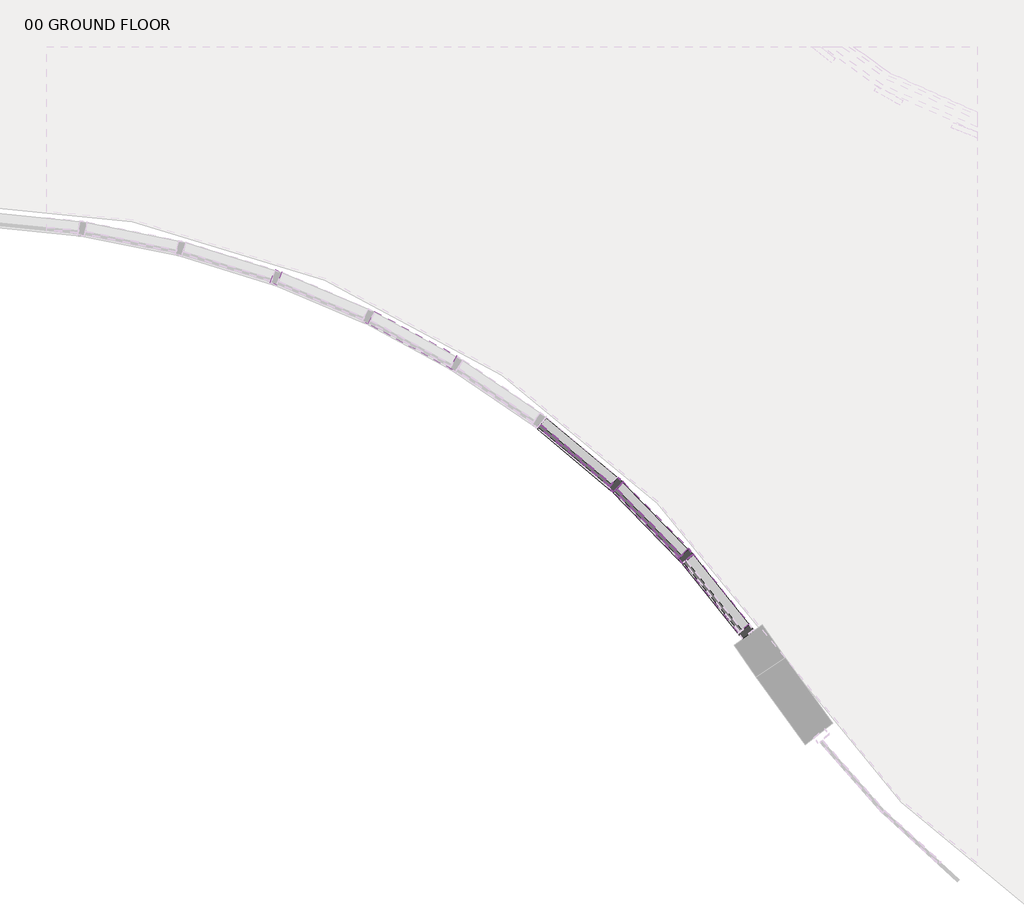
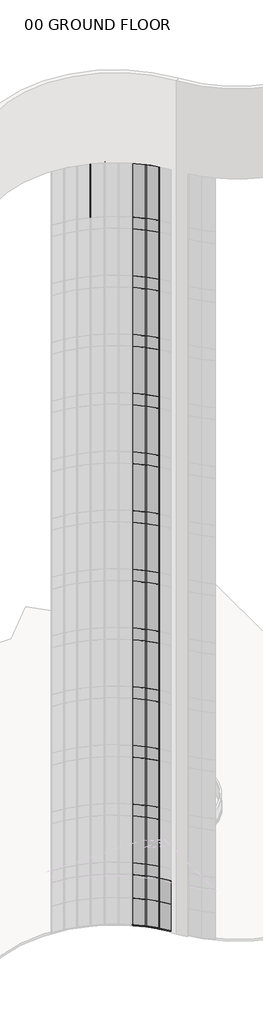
# One storey, part 11 of 33: 61 members, 54 plates.
"""IFC4 building model written with IfcOpenShell, lengths in millimetres."""

from ifc_helpers import new_model, si_unit, origin, place, context, project, spatial, transform, mapped, element, save
from components import member_45b72dba, member_3374d9b6, member_e36a524b, member_ab6b85c2, member_540e4832, member_7cbddb58, member_d60e8053, member_410c6227, member_810865a4, member_9e61c091, system_panel_su_blue_b2b39788, system_panel_su_blue_992d2dbe, system_panel_su_blue_b9649bec, system_panel_su_blue_f02faf6b, system_panel_su_blue_144861c6, system_panel_su_blue_654c3fe2, system_panel_su_blue_af244712

model = new_model("IFC4")

# Units and contexts
model_context = context("Model", 3, world=origin())
ifc_project = project(units=[si_unit("LENGTHUNIT", "METRE", prefix="MILLI")], contexts=[model_context])

# Site, building, storey
site = spatial("IfcSite", under=ifc_project)
building = spatial("IfcBuilding", under=site)
storey = spatial("IfcBuildingStorey", under=building, Name="00 GROUND FLOOR", Elevation=0.0)

# Members
placement = place(None, origin())
member_shape = member_45b72dba(model_context)
element("IfcMember", 1, ObjectType="Rectangular Mullion : 2.5\" x 5\" rectangular", at=placement, inside=storey, context=model_context, shape_type="MappedRepresentation", body=[
    mapped(member_shape, transform((22378.5173022, 362.2740469, 59436.0), x_axis=(0.624940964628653, -0.7806720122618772, 0.0), y_axis=(0.7806720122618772, 0.624940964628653, 0.0), z_axis=(0.0, 0.0, 1.0))),
])
member_2_shape = member_3374d9b6(model_context)
element("IfcMember", 2, ObjectType="Rectangular Mullion : 2.5\" x 5\" rectangular", at=placement, inside=storey, context=model_context, shape_type="MappedRepresentation", body=[
    mapped(member_2_shape, transform((22378.5173022, 362.2740469, 2133.6), x_axis=(0.624940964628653, -0.7806720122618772, 0.0), y_axis=(0.7806720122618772, 0.624940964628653, 0.0), z_axis=(0.0, 0.0, 1.0))),
])
member_3_shape = member_e36a524b(model_context)
element("IfcMember", 3, ObjectType="Rectangular Mullion : 2.5\" x 5\" rectangular", at=placement, inside=storey, context=model_context, shape_type="MappedRepresentation", body=[
    mapped(member_3_shape, transform((21839.5249529, 1035.579632, 59436.0), x_axis=(0.0, 0.0, 1.0), y_axis=(0.780672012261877, 0.6249409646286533, 0.0), z_axis=(-0.6249409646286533, 0.780672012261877, 0.0))),
])
member_4_shape = member_ab6b85c2(model_context)
element("IfcMember", 4, ObjectType="Rectangular Mullion : 2.5\" x 5\" rectangular", at=placement, inside=storey, context=model_context, shape_type="MappedRepresentation", body=[
    mapped(member_4_shape, transform((21216.4567288, 1676.7839438, 59436.0), x_axis=(0.0, 0.0, 1.0), y_axis=(0.714713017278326, 0.699417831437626, 0.0), z_axis=(-0.6994178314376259, 0.7147130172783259, 0.0))),
])
element("IfcMember", 5, ObjectType="Rectangular Mullion : 2.5\" x 5\" rectangular", at=placement, inside=storey, context=model_context, shape_type="MappedRepresentation", body=[
    mapped(member_4_shape, transform((19011.0827328, 3187.7926715, 59436.0), x_axis=(0.0, 0.0, 1.0), y_axis=(0.47734745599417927, 0.8787146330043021, 0.0), z_axis=(-0.878714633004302, 0.4773474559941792, 0.0))),
])
member_5_shape = member_540e4832(model_context)
element("IfcMember", 6, ObjectType="Rectangular Mullion : 2.5\" x 5\" rectangular", at=placement, inside=storey, context=model_context, shape_type="MappedRepresentation", body=[
    mapped(member_5_shape, transform((22338.8335509, 411.8467197, 0.0), x_axis=(0.0, 0.0, -1.0), y_axis=(0.780672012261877, 0.6249409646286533, 0.0), z_axis=(0.6249409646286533, -0.780672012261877, 0.0))),
])
element("IfcMember", 7, ObjectType="Rectangular Mullion : 2.5\" x 5\" rectangular", at=placement, inside=storey, context=model_context, shape_type="MappedRepresentation", body=[
    mapped(member_4_shape, transform((21797.4765612, 1083.0581067, 0.0), x_axis=(0.0, 0.0, -1.0), y_axis=(0.714713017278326, 0.699417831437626, 0.0), z_axis=(0.6994178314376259, -0.7147130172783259, 0.0))),
])
element("IfcMember", 8, ObjectType="Rectangular Mullion : 2.5\" x 5\" rectangular", at=placement, inside=storey, context=model_context, shape_type="MappedRepresentation", body=[
    mapped(member_4_shape, transform((21169.8988426, 1719.8494294, 0.0), x_axis=(0.0, 0.0, -1.0), y_axis=(0.6416802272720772, 0.7669722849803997, 0.0), z_axis=(0.7669722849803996, -0.6416802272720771, 0.0))),
])
member_6_shape = member_7cbddb58(model_context)
element("IfcMember", 9, ObjectType="Rectangular Mullion : 2.5\" x 5\" rectangular", at=placement, inside=storey, context=model_context, shape_type="MappedRepresentation", body=[
    mapped(member_6_shape, transform((21819.6830773, 1060.3659684, 0.0), x_axis=(-0.6630001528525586, 0.7486192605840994, 0.0), y_axis=(0.7486192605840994, 0.6630001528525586, 0.0), z_axis=(0.0, 0.0, -1.0))),
])
element("IfcMember", 10, ObjectType="Rectangular Mullion : 2.5\" x 5\" rectangular", at=placement, inside=storey, context=model_context, shape_type="MappedRepresentation", body=[
    mapped(member_6_shape, transform((21194.2502127, 1699.4760821, 0.0), x_axis=(-0.7341038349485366, 0.6790372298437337, 0.0), y_axis=(0.6790372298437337, 0.7341038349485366, 0.0), z_axis=(0.0, 0.0, -1.0))),
])
member_7_shape = member_d60e8053(model_context)
element("IfcMember", 11, ObjectType="Rectangular Mullion : 2.5\" x 5\" rectangular", at=placement, inside=storey, context=model_context, shape_type="MappedRepresentation", body=[
    mapped(member_7_shape, transform((21819.6830773, 1060.3659684, 2133.6), x_axis=(-0.6630001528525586, 0.7486192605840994, 0.0), y_axis=(0.7486192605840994, 0.6630001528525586, 0.0), z_axis=(0.0, 0.0, -1.0))),
])
element("IfcMember", 12, ObjectType="Rectangular Mullion : 2.5\" x 5\" rectangular", at=placement, inside=storey, context=model_context, shape_type="MappedRepresentation", body=[
    mapped(member_7_shape, transform((21194.2502127, 1699.4760821, 2133.6), x_axis=(-0.7341038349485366, 0.6790372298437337, 0.0), y_axis=(0.6790372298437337, 0.7341038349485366, 0.0), z_axis=(0.0, 0.0, -1.0))),
])
member_8_shape = member_410c6227(model_context)
element("IfcMember", 13, ObjectType="Rectangular Mullion : 2.5\" x 5\" rectangular", at=placement, inside=storey, context=model_context, shape_type="MappedRepresentation", body=[
    mapped(member_8_shape, transform((21819.6830773, 1060.3659684, 3962.4), x_axis=(-0.6630001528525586, 0.7486192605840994, 0.0), y_axis=(0.7486192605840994, 0.6630001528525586, 0.0), z_axis=(0.0, 0.0, -1.0))),
])
element("IfcMember", 14, ObjectType="Rectangular Mullion : 2.5\" x 5\" rectangular", at=placement, inside=storey, context=model_context, shape_type="MappedRepresentation", body=[
    mapped(member_8_shape, transform((21194.2502127, 1699.4760821, 3962.4), x_axis=(-0.7341038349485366, 0.6790372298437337, 0.0), y_axis=(0.6790372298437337, 0.7341038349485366, 0.0), z_axis=(0.0, 0.0, -1.0))),
])
element("IfcMember", 15, ObjectType="Rectangular Mullion : 2.5\" x 5\" rectangular", at=placement, inside=storey, context=model_context, shape_type="MappedRepresentation", body=[
    mapped(member_8_shape, transform((21819.6830773, 1060.3659684, 8534.4), x_axis=(-0.6630001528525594, 0.7486192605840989, 0.0), y_axis=(0.7486192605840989, 0.6630001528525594, 0.0), z_axis=(0.0, 0.0, -1.0))),
])
element("IfcMember", 16, ObjectType="Rectangular Mullion : 2.5\" x 5\" rectangular", at=placement, inside=storey, context=model_context, shape_type="MappedRepresentation", body=[
    mapped(member_8_shape, transform((21194.2502127, 1699.4760821, 8534.4), x_axis=(-0.7341038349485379, 0.6790372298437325, 0.0), y_axis=(0.6790372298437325, 0.7341038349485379, 0.0), z_axis=(0.0, 0.0, -1.0))),
])
element("IfcMember", 17, ObjectType="Rectangular Mullion : 2.5\" x 5\" rectangular", at=placement, inside=storey, context=model_context, shape_type="MappedRepresentation", body=[
    mapped(member_8_shape, transform((21819.6830773, 1060.3659684, 13106.4), x_axis=(-0.6630001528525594, 0.7486192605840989, 0.0), y_axis=(0.7486192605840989, 0.6630001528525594, 0.0), z_axis=(0.0, 0.0, -1.0))),
])
element("IfcMember", 18, ObjectType="Rectangular Mullion : 2.5\" x 5\" rectangular", at=placement, inside=storey, context=model_context, shape_type="MappedRepresentation", body=[
    mapped(member_8_shape, transform((21194.2502127, 1699.4760821, 13106.4), x_axis=(-0.7341038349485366, 0.6790372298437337, 0.0), y_axis=(0.6790372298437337, 0.7341038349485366, 0.0), z_axis=(0.0, 0.0, -1.0))),
])
element("IfcMember", 19, ObjectType="Rectangular Mullion : 2.5\" x 5\" rectangular", at=placement, inside=storey, context=model_context, shape_type="MappedRepresentation", body=[
    mapped(member_8_shape, transform((21819.6830773, 1060.3659684, 17678.4), x_axis=(-0.6630001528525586, 0.7486192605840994, 0.0), y_axis=(0.7486192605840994, 0.6630001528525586, 0.0), z_axis=(0.0, 0.0, -1.0))),
])
element("IfcMember", 20, ObjectType="Rectangular Mullion : 2.5\" x 5\" rectangular", at=placement, inside=storey, context=model_context, shape_type="MappedRepresentation", body=[
    mapped(member_8_shape, transform((21194.2502127, 1699.4760821, 17678.4), x_axis=(-0.7341038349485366, 0.6790372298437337, 0.0), y_axis=(0.6790372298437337, 0.7341038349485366, 0.0), z_axis=(0.0, 0.0, -1.0))),
])
element("IfcMember", 21, ObjectType="Rectangular Mullion : 2.5\" x 5\" rectangular", at=placement, inside=storey, context=model_context, shape_type="MappedRepresentation", body=[
    mapped(member_8_shape, transform((21819.6830773, 1060.3659684, 22250.4), x_axis=(-0.6630001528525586, 0.7486192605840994, 0.0), y_axis=(0.7486192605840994, 0.6630001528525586, 0.0), z_axis=(0.0, 0.0, -1.0))),
])
element("IfcMember", 22, ObjectType="Rectangular Mullion : 2.5\" x 5\" rectangular", at=placement, inside=storey, context=model_context, shape_type="MappedRepresentation", body=[
    mapped(member_8_shape, transform((21194.2502127, 1699.4760821, 22250.4), x_axis=(-0.7341038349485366, 0.6790372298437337, 0.0), y_axis=(0.6790372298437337, 0.7341038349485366, 0.0), z_axis=(0.0, 0.0, -1.0))),
])
element("IfcMember", 23, ObjectType="Rectangular Mullion : 2.5\" x 5\" rectangular", at=placement, inside=storey, context=model_context, shape_type="MappedRepresentation", body=[
    mapped(member_8_shape, transform((21819.6830773, 1060.3659684, 26822.4), x_axis=(-0.6630001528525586, 0.7486192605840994, 0.0), y_axis=(0.7486192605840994, 0.6630001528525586, 0.0), z_axis=(0.0, 0.0, -1.0))),
])
element("IfcMember", 24, ObjectType="Rectangular Mullion : 2.5\" x 5\" rectangular", at=placement, inside=storey, context=model_context, shape_type="MappedRepresentation", body=[
    mapped(member_8_shape, transform((21194.2502127, 1699.4760821, 26822.4), x_axis=(-0.7341038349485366, 0.6790372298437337, 0.0), y_axis=(0.6790372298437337, 0.7341038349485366, 0.0), z_axis=(0.0, 0.0, -1.0))),
])
element("IfcMember", 25, ObjectType="Rectangular Mullion : 2.5\" x 5\" rectangular", at=placement, inside=storey, context=model_context, shape_type="MappedRepresentation", body=[
    mapped(member_8_shape, transform((21819.6830773, 1060.3659684, 31394.4), x_axis=(-0.6630001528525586, 0.7486192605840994, 0.0), y_axis=(0.7486192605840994, 0.6630001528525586, 0.0), z_axis=(0.0, 0.0, -1.0))),
])
element("IfcMember", 26, ObjectType="Rectangular Mullion : 2.5\" x 5\" rectangular", at=placement, inside=storey, context=model_context, shape_type="MappedRepresentation", body=[
    mapped(member_8_shape, transform((21194.2502127, 1699.4760821, 31394.4), x_axis=(-0.7341038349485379, 0.6790372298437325, 0.0), y_axis=(0.6790372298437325, 0.7341038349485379, 0.0), z_axis=(0.0, 0.0, -1.0))),
])
element("IfcMember", 27, ObjectType="Rectangular Mullion : 2.5\" x 5\" rectangular", at=placement, inside=storey, context=model_context, shape_type="MappedRepresentation", body=[
    mapped(member_8_shape, transform((21819.6830773, 1060.3659684, 35966.4), x_axis=(-0.6630001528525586, 0.7486192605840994, 0.0), y_axis=(0.7486192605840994, 0.6630001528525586, 0.0), z_axis=(0.0, 0.0, -1.0))),
])
element("IfcMember", 28, ObjectType="Rectangular Mullion : 2.5\" x 5\" rectangular", at=placement, inside=storey, context=model_context, shape_type="MappedRepresentation", body=[
    mapped(member_8_shape, transform((21194.2502127, 1699.4760821, 35966.4), x_axis=(-0.7341038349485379, 0.6790372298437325, 0.0), y_axis=(0.6790372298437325, 0.7341038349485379, 0.0), z_axis=(0.0, 0.0, -1.0))),
])
element("IfcMember", 29, ObjectType="Rectangular Mullion : 2.5\" x 5\" rectangular", at=placement, inside=storey, context=model_context, shape_type="MappedRepresentation", body=[
    mapped(member_8_shape, transform((21819.6830773, 1060.3659684, 40538.4), x_axis=(-0.6630001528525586, 0.7486192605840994, 0.0), y_axis=(0.7486192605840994, 0.6630001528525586, 0.0), z_axis=(0.0, 0.0, -1.0))),
])
element("IfcMember", 30, ObjectType="Rectangular Mullion : 2.5\" x 5\" rectangular", at=placement, inside=storey, context=model_context, shape_type="MappedRepresentation", body=[
    mapped(member_8_shape, transform((21194.2502127, 1699.4760821, 40538.4), x_axis=(-0.7341038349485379, 0.6790372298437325, 0.0), y_axis=(0.6790372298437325, 0.7341038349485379, 0.0), z_axis=(0.0, 0.0, -1.0))),
])
element("IfcMember", 31, ObjectType="Rectangular Mullion : 2.5\" x 5\" rectangular", at=placement, inside=storey, context=model_context, shape_type="MappedRepresentation", body=[
    mapped(member_8_shape, transform((21819.6830773, 1060.3659684, 45110.4), x_axis=(-0.6630001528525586, 0.7486192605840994, 0.0), y_axis=(0.7486192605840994, 0.6630001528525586, 0.0), z_axis=(0.0, 0.0, -1.0))),
])
element("IfcMember", 32, ObjectType="Rectangular Mullion : 2.5\" x 5\" rectangular", at=placement, inside=storey, context=model_context, shape_type="MappedRepresentation", body=[
    mapped(member_8_shape, transform((21194.2502127, 1699.4760821, 45110.4), x_axis=(-0.7341038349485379, 0.6790372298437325, 0.0), y_axis=(0.6790372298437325, 0.7341038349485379, 0.0), z_axis=(0.0, 0.0, -1.0))),
])
element("IfcMember", 33, ObjectType="Rectangular Mullion : 2.5\" x 5\" rectangular", at=placement, inside=storey, context=model_context, shape_type="MappedRepresentation", body=[
    mapped(member_8_shape, transform((21819.6830773, 1060.3659684, 49682.4), x_axis=(-0.6630001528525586, 0.7486192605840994, 0.0), y_axis=(0.7486192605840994, 0.6630001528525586, 0.0), z_axis=(0.0, 0.0, -1.0))),
])
element("IfcMember", 34, ObjectType="Rectangular Mullion : 2.5\" x 5\" rectangular", at=placement, inside=storey, context=model_context, shape_type="MappedRepresentation", body=[
    mapped(member_8_shape, transform((21194.2502127, 1699.4760821, 49682.4), x_axis=(-0.7341038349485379, 0.6790372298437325, 0.0), y_axis=(0.6790372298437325, 0.7341038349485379, 0.0), z_axis=(0.0, 0.0, -1.0))),
])
element("IfcMember", 35, ObjectType="Rectangular Mullion : 2.5\" x 5\" rectangular", at=placement, inside=storey, context=model_context, shape_type="MappedRepresentation", body=[
    mapped(member_8_shape, transform((21819.6830773, 1060.3659684, 54254.4), x_axis=(-0.6630001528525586, 0.7486192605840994, 0.0), y_axis=(0.7486192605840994, 0.6630001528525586, 0.0), z_axis=(0.0, 0.0, -1.0))),
])
element("IfcMember", 36, ObjectType="Rectangular Mullion : 2.5\" x 5\" rectangular", at=placement, inside=storey, context=model_context, shape_type="MappedRepresentation", body=[
    mapped(member_8_shape, transform((21194.2502127, 1699.4760821, 54254.4), x_axis=(-0.7341038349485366, 0.6790372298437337, 0.0), y_axis=(0.6790372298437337, 0.7341038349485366, 0.0), z_axis=(0.0, 0.0, -1.0))),
])
member_9_shape = member_810865a4(model_context)
element("IfcMember", 37, ObjectType="Rectangular Mullion : 2.5\" x 5\" rectangular", at=placement, inside=storey, context=model_context, shape_type="MappedRepresentation", body=[
    mapped(member_9_shape, transform((21819.6830773, 1060.3659684, 4876.8), x_axis=(-0.6630001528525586, 0.7486192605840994, 0.0), y_axis=(0.7486192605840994, 0.6630001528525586, 0.0), z_axis=(0.0, 0.0, -1.0))),
])
element("IfcMember", 38, ObjectType="Rectangular Mullion : 2.5\" x 5\" rectangular", at=placement, inside=storey, context=model_context, shape_type="MappedRepresentation", body=[
    mapped(member_9_shape, transform((21194.2502127, 1699.4760821, 4876.8), x_axis=(-0.7341038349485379, 0.6790372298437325, 0.0), y_axis=(0.6790372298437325, 0.7341038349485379, 0.0), z_axis=(0.0, 0.0, -1.0))),
])
element("IfcMember", 39, ObjectType="Rectangular Mullion : 2.5\" x 5\" rectangular", at=placement, inside=storey, context=model_context, shape_type="MappedRepresentation", body=[
    mapped(member_9_shape, transform((21819.6830773, 1060.3659684, 9448.8), x_axis=(-0.6630001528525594, 0.7486192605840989, 0.0), y_axis=(0.7486192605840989, 0.6630001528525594, 0.0), z_axis=(0.0, 0.0, -1.0))),
])
element("IfcMember", 40, ObjectType="Rectangular Mullion : 2.5\" x 5\" rectangular", at=placement, inside=storey, context=model_context, shape_type="MappedRepresentation", body=[
    mapped(member_9_shape, transform((21194.2502127, 1699.4760821, 9448.8), x_axis=(-0.7341038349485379, 0.6790372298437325, 0.0), y_axis=(0.6790372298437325, 0.7341038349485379, 0.0), z_axis=(0.0, 0.0, -1.0))),
])
element("IfcMember", 41, ObjectType="Rectangular Mullion : 2.5\" x 5\" rectangular", at=placement, inside=storey, context=model_context, shape_type="MappedRepresentation", body=[
    mapped(member_9_shape, transform((21819.6830773, 1060.3659684, 14020.8), x_axis=(-0.6630001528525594, 0.7486192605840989, 0.0), y_axis=(0.7486192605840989, 0.6630001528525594, 0.0), z_axis=(0.0, 0.0, -1.0))),
])
element("IfcMember", 42, ObjectType="Rectangular Mullion : 2.5\" x 5\" rectangular", at=placement, inside=storey, context=model_context, shape_type="MappedRepresentation", body=[
    mapped(member_9_shape, transform((21194.2502127, 1699.4760821, 14020.8), x_axis=(-0.7341038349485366, 0.6790372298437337, 0.0), y_axis=(0.6790372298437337, 0.7341038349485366, 0.0), z_axis=(0.0, 0.0, -1.0))),
])
element("IfcMember", 43, ObjectType="Rectangular Mullion : 2.5\" x 5\" rectangular", at=placement, inside=storey, context=model_context, shape_type="MappedRepresentation", body=[
    mapped(member_9_shape, transform((21819.6830773, 1060.3659684, 18592.8), x_axis=(-0.6630001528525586, 0.7486192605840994, 0.0), y_axis=(0.7486192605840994, 0.6630001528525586, 0.0), z_axis=(0.0, 0.0, -1.0))),
])
element("IfcMember", 44, ObjectType="Rectangular Mullion : 2.5\" x 5\" rectangular", at=placement, inside=storey, context=model_context, shape_type="MappedRepresentation", body=[
    mapped(member_9_shape, transform((21194.2502127, 1699.4760821, 18592.8), x_axis=(-0.7341038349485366, 0.6790372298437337, 0.0), y_axis=(0.6790372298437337, 0.7341038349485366, 0.0), z_axis=(0.0, 0.0, -1.0))),
])
element("IfcMember", 45, ObjectType="Rectangular Mullion : 2.5\" x 5\" rectangular", at=placement, inside=storey, context=model_context, shape_type="MappedRepresentation", body=[
    mapped(member_9_shape, transform((21819.6830773, 1060.3659684, 23164.8), x_axis=(-0.6630001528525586, 0.7486192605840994, 0.0), y_axis=(0.7486192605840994, 0.6630001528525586, 0.0), z_axis=(0.0, 0.0, -1.0))),
])
element("IfcMember", 46, ObjectType="Rectangular Mullion : 2.5\" x 5\" rectangular", at=placement, inside=storey, context=model_context, shape_type="MappedRepresentation", body=[
    mapped(member_9_shape, transform((21194.2502127, 1699.4760821, 23164.8), x_axis=(-0.7341038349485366, 0.6790372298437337, 0.0), y_axis=(0.6790372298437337, 0.7341038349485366, 0.0), z_axis=(0.0, 0.0, -1.0))),
])
element("IfcMember", 47, ObjectType="Rectangular Mullion : 2.5\" x 5\" rectangular", at=placement, inside=storey, context=model_context, shape_type="MappedRepresentation", body=[
    mapped(member_9_shape, transform((21819.6830773, 1060.3659684, 27736.8), x_axis=(-0.6630001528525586, 0.7486192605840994, 0.0), y_axis=(0.7486192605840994, 0.6630001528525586, 0.0), z_axis=(0.0, 0.0, -1.0))),
])
element("IfcMember", 48, ObjectType="Rectangular Mullion : 2.5\" x 5\" rectangular", at=placement, inside=storey, context=model_context, shape_type="MappedRepresentation", body=[
    mapped(member_9_shape, transform((21194.2502127, 1699.4760821, 27736.8), x_axis=(-0.7341038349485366, 0.6790372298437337, 0.0), y_axis=(0.6790372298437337, 0.7341038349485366, 0.0), z_axis=(0.0, 0.0, -1.0))),
])
element("IfcMember", 49, ObjectType="Rectangular Mullion : 2.5\" x 5\" rectangular", at=placement, inside=storey, context=model_context, shape_type="MappedRepresentation", body=[
    mapped(member_9_shape, transform((21819.6830773, 1060.3659684, 32308.8), x_axis=(-0.6630001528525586, 0.7486192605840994, 0.0), y_axis=(0.7486192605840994, 0.6630001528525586, 0.0), z_axis=(0.0, 0.0, -1.0))),
])
element("IfcMember", 50, ObjectType="Rectangular Mullion : 2.5\" x 5\" rectangular", at=placement, inside=storey, context=model_context, shape_type="MappedRepresentation", body=[
    mapped(member_9_shape, transform((21194.2502127, 1699.4760821, 32308.8), x_axis=(-0.7341038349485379, 0.6790372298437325, 0.0), y_axis=(0.6790372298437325, 0.7341038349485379, 0.0), z_axis=(0.0, 0.0, -1.0))),
])
element("IfcMember", 51, ObjectType="Rectangular Mullion : 2.5\" x 5\" rectangular", at=placement, inside=storey, context=model_context, shape_type="MappedRepresentation", body=[
    mapped(member_9_shape, transform((21819.6830773, 1060.3659684, 36880.8), x_axis=(-0.6630001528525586, 0.7486192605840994, 0.0), y_axis=(0.7486192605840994, 0.6630001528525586, 0.0), z_axis=(0.0, 0.0, -1.0))),
])
element("IfcMember", 52, ObjectType="Rectangular Mullion : 2.5\" x 5\" rectangular", at=placement, inside=storey, context=model_context, shape_type="MappedRepresentation", body=[
    mapped(member_9_shape, transform((21194.2502127, 1699.4760821, 36880.8), x_axis=(-0.7341038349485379, 0.6790372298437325, 0.0), y_axis=(0.6790372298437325, 0.7341038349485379, 0.0), z_axis=(0.0, 0.0, -1.0))),
])
element("IfcMember", 53, ObjectType="Rectangular Mullion : 2.5\" x 5\" rectangular", at=placement, inside=storey, context=model_context, shape_type="MappedRepresentation", body=[
    mapped(member_9_shape, transform((21819.6830773, 1060.3659684, 41452.8), x_axis=(-0.6630001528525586, 0.7486192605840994, 0.0), y_axis=(0.7486192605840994, 0.6630001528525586, 0.0), z_axis=(0.0, 0.0, -1.0))),
])
element("IfcMember", 54, ObjectType="Rectangular Mullion : 2.5\" x 5\" rectangular", at=placement, inside=storey, context=model_context, shape_type="MappedRepresentation", body=[
    mapped(member_9_shape, transform((21194.2502127, 1699.4760821, 41452.8), x_axis=(-0.7341038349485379, 0.6790372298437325, 0.0), y_axis=(0.6790372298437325, 0.7341038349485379, 0.0), z_axis=(0.0, 0.0, -1.0))),
])
element("IfcMember", 55, ObjectType="Rectangular Mullion : 2.5\" x 5\" rectangular", at=placement, inside=storey, context=model_context, shape_type="MappedRepresentation", body=[
    mapped(member_9_shape, transform((21819.6830773, 1060.3659684, 46024.8), x_axis=(-0.6630001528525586, 0.7486192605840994, 0.0), y_axis=(0.7486192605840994, 0.6630001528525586, 0.0), z_axis=(0.0, 0.0, -1.0))),
])
element("IfcMember", 56, ObjectType="Rectangular Mullion : 2.5\" x 5\" rectangular", at=placement, inside=storey, context=model_context, shape_type="MappedRepresentation", body=[
    mapped(member_9_shape, transform((21194.2502127, 1699.4760821, 46024.8), x_axis=(-0.7341038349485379, 0.6790372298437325, 0.0), y_axis=(0.6790372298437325, 0.7341038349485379, 0.0), z_axis=(0.0, 0.0, -1.0))),
])
element("IfcMember", 57, ObjectType="Rectangular Mullion : 2.5\" x 5\" rectangular", at=placement, inside=storey, context=model_context, shape_type="MappedRepresentation", body=[
    mapped(member_9_shape, transform((21819.6830773, 1060.3659684, 50596.8), x_axis=(-0.6630001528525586, 0.7486192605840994, 0.0), y_axis=(0.7486192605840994, 0.6630001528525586, 0.0), z_axis=(0.0, 0.0, -1.0))),
])
element("IfcMember", 58, ObjectType="Rectangular Mullion : 2.5\" x 5\" rectangular", at=placement, inside=storey, context=model_context, shape_type="MappedRepresentation", body=[
    mapped(member_9_shape, transform((21194.2502127, 1699.4760821, 50596.8), x_axis=(-0.7341038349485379, 0.6790372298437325, 0.0), y_axis=(0.6790372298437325, 0.7341038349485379, 0.0), z_axis=(0.0, 0.0, -1.0))),
])
member_10_shape = member_9e61c091(model_context)
element("IfcMember", 59, ObjectType="Rectangular Mullion : 2.5\" x 5\" rectangular", at=placement, inside=storey, context=model_context, shape_type="MappedRepresentation", body=[
    mapped(member_10_shape, transform((21819.6830773, 1060.3659684, 55168.8), x_axis=(-0.6630001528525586, 0.7486192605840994, 0.0), y_axis=(0.7486192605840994, 0.6630001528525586, 0.0), z_axis=(0.0, 0.0, -1.0))),
])
element("IfcMember", 60, ObjectType="Rectangular Mullion : 2.5\" x 5\" rectangular", at=placement, inside=storey, context=model_context, shape_type="MappedRepresentation", body=[
    mapped(member_10_shape, transform((21194.2502127, 1699.4760821, 55168.8), x_axis=(-0.7341038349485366, 0.6790372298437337, 0.0), y_axis=(0.6790372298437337, 0.7341038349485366, 0.0), z_axis=(0.0, 0.0, -1.0))),
])
element("IfcMember", 61, ObjectType="Rectangular Mullion : 2.5\" x 5\" rectangular", at=placement, inside=storey, context=model_context, shape_type="MappedRepresentation", body=[
    mapped(member_10_shape, transform((18158.8953377, 3549.6139404, 55168.8), x_axis=(-0.9399394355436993, 0.34134126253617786, 0.0), y_axis=(0.34134126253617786, 0.9399394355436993, 0.0), z_axis=(0.0, 0.0, -1.0))),
])

# Plates
system_panel_su_blue_shape = system_panel_su_blue_b2b39788(model_context)
element("IfcPlate", 62, ObjectType="System Panel : SU_BLUE", at=placement, inside=storey, context=model_context, shape_type="MappedRepresentation", body=[
    mapped(system_panel_su_blue_shape, transform((22089.1792519, 723.7131758, 63.5), x_axis=(-0.624940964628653, 0.7806720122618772, 0.0), y_axis=(-0.7806720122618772, -0.624940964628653, 0.0), z_axis=(0.0, 0.0, 1.0))),
])
system_panel_su_blue_2_shape = system_panel_su_blue_992d2dbe(model_context)
element("IfcPlate", 63, ObjectType="System Panel : SU_BLUE", at=placement, inside=storey, context=model_context, shape_type="MappedRepresentation", body=[
    mapped(system_panel_su_blue_2_shape, transform((21506.966645, 1379.9210253, 63.5), x_axis=(-0.699417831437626, 0.714713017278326, 0.0), y_axis=(-0.714713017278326, -0.699417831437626, 0.0), z_axis=(0.0, 0.0, 1.0))),
])
element("IfcPlate", 64, ObjectType="System Panel : SU_BLUE", at=placement, inside=storey, context=model_context, shape_type="MappedRepresentation", body=[
    mapped(system_panel_su_blue_2_shape, transform((20851.3295351, 1986.3774769, 63.5), x_axis=(-0.7669722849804, 0.6416802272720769, 0.0), y_axis=(-0.6416802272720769, -0.7669722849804, 0.0), z_axis=(0.0, 0.0, 1.0))),
])
system_panel_su_blue_3_shape = system_panel_su_blue_b9649bec(model_context)
element("IfcPlate", 65, ObjectType="System Panel : SU_BLUE", at=placement, inside=storey, context=model_context, shape_type="MappedRepresentation", body=[
    mapped(system_panel_su_blue_3_shape, transform((22089.1792519, 723.7131758, 2133.6), x_axis=(-0.624940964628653, 0.7806720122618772, 0.0), y_axis=(-0.7806720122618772, -0.624940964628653, 0.0), z_axis=(0.0, 0.0, 1.0))),
])
system_panel_su_blue_4_shape = system_panel_su_blue_f02faf6b(model_context)
element("IfcPlate", 66, ObjectType="System Panel : SU_BLUE", at=placement, inside=storey, context=model_context, shape_type="MappedRepresentation", body=[
    mapped(system_panel_su_blue_4_shape, transform((21506.966645, 1379.9210253, 2133.6), x_axis=(-0.699417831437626, 0.714713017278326, 0.0), y_axis=(-0.714713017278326, -0.699417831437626, 0.0), z_axis=(0.0, 0.0, 1.0))),
])
element("IfcPlate", 67, ObjectType="System Panel : SU_BLUE", at=placement, inside=storey, context=model_context, shape_type="MappedRepresentation", body=[
    mapped(system_panel_su_blue_4_shape, transform((20851.3295351, 1986.3774769, 2133.6), x_axis=(-0.7669722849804, 0.6416802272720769, 0.0), y_axis=(-0.6416802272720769, -0.7669722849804, 0.0), z_axis=(0.0, 0.0, 1.0))),
])
system_panel_su_blue_5_shape = system_panel_su_blue_144861c6(model_context)
element("IfcPlate", 68, ObjectType="System Panel : SU_BLUE", at=placement, inside=storey, context=model_context, shape_type="MappedRepresentation", body=[
    mapped(system_panel_su_blue_5_shape, transform((21506.966645, 1379.9210253, 3962.4), x_axis=(-0.699417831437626, 0.714713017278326, 0.0), y_axis=(-0.714713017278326, -0.699417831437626, 0.0), z_axis=(0.0, 0.0, 1.0))),
])
element("IfcPlate", 69, ObjectType="System Panel : SU_BLUE", at=placement, inside=storey, context=model_context, shape_type="MappedRepresentation", body=[
    mapped(system_panel_su_blue_5_shape, transform((20851.3295351, 1986.3774769, 3962.4), x_axis=(-0.7669722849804, 0.6416802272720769, 0.0), y_axis=(-0.6416802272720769, -0.7669722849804, 0.0), z_axis=(0.0, 0.0, 1.0))),
])
element("IfcPlate", 70, ObjectType="System Panel : SU_BLUE", at=placement, inside=storey, context=model_context, shape_type="MappedRepresentation", body=[
    mapped(system_panel_su_blue_5_shape, transform((21506.966645, 1379.9210253, 8534.4), x_axis=(-0.699417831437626, 0.714713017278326, 0.0), y_axis=(-0.714713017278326, -0.699417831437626, 0.0), z_axis=(0.0, 0.0, 1.0))),
])
element("IfcPlate", 71, ObjectType="System Panel : SU_BLUE", at=placement, inside=storey, context=model_context, shape_type="MappedRepresentation", body=[
    mapped(system_panel_su_blue_5_shape, transform((20851.3295351, 1986.3774769, 8534.4), x_axis=(-0.7669722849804, 0.6416802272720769, 0.0), y_axis=(-0.6416802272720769, -0.7669722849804, 0.0), z_axis=(0.0, 0.0, 1.0))),
])
element("IfcPlate", 72, ObjectType="System Panel : SU_BLUE", at=placement, inside=storey, context=model_context, shape_type="MappedRepresentation", body=[
    mapped(system_panel_su_blue_5_shape, transform((21506.966645, 1379.9210253, 13106.4), x_axis=(-0.699417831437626, 0.714713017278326, 0.0), y_axis=(-0.714713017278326, -0.699417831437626, 0.0), z_axis=(0.0, 0.0, 1.0))),
])
element("IfcPlate", 73, ObjectType="System Panel : SU_BLUE", at=placement, inside=storey, context=model_context, shape_type="MappedRepresentation", body=[
    mapped(system_panel_su_blue_5_shape, transform((20851.3295351, 1986.3774769, 13106.4), x_axis=(-0.7669722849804, 0.6416802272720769, 0.0), y_axis=(-0.6416802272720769, -0.7669722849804, 0.0), z_axis=(0.0, 0.0, 1.0))),
])
element("IfcPlate", 74, ObjectType="System Panel : SU_BLUE", at=placement, inside=storey, context=model_context, shape_type="MappedRepresentation", body=[
    mapped(system_panel_su_blue_5_shape, transform((21506.966645, 1379.9210253, 17678.4), x_axis=(-0.699417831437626, 0.714713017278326, 0.0), y_axis=(-0.714713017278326, -0.699417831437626, 0.0), z_axis=(0.0, 0.0, 1.0))),
])
element("IfcPlate", 75, ObjectType="System Panel : SU_BLUE", at=placement, inside=storey, context=model_context, shape_type="MappedRepresentation", body=[
    mapped(system_panel_su_blue_5_shape, transform((20851.3295351, 1986.3774769, 17678.4), x_axis=(-0.7669722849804, 0.6416802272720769, 0.0), y_axis=(-0.6416802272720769, -0.7669722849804, 0.0), z_axis=(0.0, 0.0, 1.0))),
])
element("IfcPlate", 76, ObjectType="System Panel : SU_BLUE", at=placement, inside=storey, context=model_context, shape_type="MappedRepresentation", body=[
    mapped(system_panel_su_blue_5_shape, transform((21506.966645, 1379.9210253, 22250.4), x_axis=(-0.699417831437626, 0.714713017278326, 0.0), y_axis=(-0.714713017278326, -0.699417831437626, 0.0), z_axis=(0.0, 0.0, 1.0))),
])
element("IfcPlate", 77, ObjectType="System Panel : SU_BLUE", at=placement, inside=storey, context=model_context, shape_type="MappedRepresentation", body=[
    mapped(system_panel_su_blue_5_shape, transform((20851.3295351, 1986.3774769, 22250.4), x_axis=(-0.7669722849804, 0.6416802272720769, 0.0), y_axis=(-0.6416802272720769, -0.7669722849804, 0.0), z_axis=(0.0, 0.0, 1.0))),
])
element("IfcPlate", 78, ObjectType="System Panel : SU_BLUE", at=placement, inside=storey, context=model_context, shape_type="MappedRepresentation", body=[
    mapped(system_panel_su_blue_5_shape, transform((21506.966645, 1379.9210253, 26822.4), x_axis=(-0.699417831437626, 0.714713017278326, 0.0), y_axis=(-0.714713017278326, -0.699417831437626, 0.0), z_axis=(0.0, 0.0, 1.0))),
])
element("IfcPlate", 79, ObjectType="System Panel : SU_BLUE", at=placement, inside=storey, context=model_context, shape_type="MappedRepresentation", body=[
    mapped(system_panel_su_blue_5_shape, transform((20851.3295351, 1986.3774769, 26822.4), x_axis=(-0.7669722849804, 0.6416802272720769, 0.0), y_axis=(-0.6416802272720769, -0.7669722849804, 0.0), z_axis=(0.0, 0.0, 1.0))),
])
element("IfcPlate", 80, ObjectType="System Panel : SU_BLUE", at=placement, inside=storey, context=model_context, shape_type="MappedRepresentation", body=[
    mapped(system_panel_su_blue_5_shape, transform((21506.966645, 1379.9210253, 31394.4), x_axis=(-0.699417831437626, 0.714713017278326, 0.0), y_axis=(-0.714713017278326, -0.699417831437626, 0.0), z_axis=(0.0, 0.0, 1.0))),
])
element("IfcPlate", 81, ObjectType="System Panel : SU_BLUE", at=placement, inside=storey, context=model_context, shape_type="MappedRepresentation", body=[
    mapped(system_panel_su_blue_5_shape, transform((20851.3295351, 1986.3774769, 31394.4), x_axis=(-0.7669722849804, 0.6416802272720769, 0.0), y_axis=(-0.6416802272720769, -0.7669722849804, 0.0), z_axis=(0.0, 0.0, 1.0))),
])
element("IfcPlate", 82, ObjectType="System Panel : SU_BLUE", at=placement, inside=storey, context=model_context, shape_type="MappedRepresentation", body=[
    mapped(system_panel_su_blue_5_shape, transform((21506.966645, 1379.9210253, 35966.4), x_axis=(-0.699417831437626, 0.714713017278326, 0.0), y_axis=(-0.714713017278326, -0.699417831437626, 0.0), z_axis=(0.0, 0.0, 1.0))),
])
element("IfcPlate", 83, ObjectType="System Panel : SU_BLUE", at=placement, inside=storey, context=model_context, shape_type="MappedRepresentation", body=[
    mapped(system_panel_su_blue_5_shape, transform((20851.3295351, 1986.3774769, 35966.4), x_axis=(-0.7669722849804, 0.6416802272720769, 0.0), y_axis=(-0.6416802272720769, -0.7669722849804, 0.0), z_axis=(0.0, 0.0, 1.0))),
])
element("IfcPlate", 84, ObjectType="System Panel : SU_BLUE", at=placement, inside=storey, context=model_context, shape_type="MappedRepresentation", body=[
    mapped(system_panel_su_blue_5_shape, transform((21506.966645, 1379.9210253, 40538.4), x_axis=(-0.699417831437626, 0.714713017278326, 0.0), y_axis=(-0.714713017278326, -0.699417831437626, 0.0), z_axis=(0.0, 0.0, 1.0))),
])
element("IfcPlate", 85, ObjectType="System Panel : SU_BLUE", at=placement, inside=storey, context=model_context, shape_type="MappedRepresentation", body=[
    mapped(system_panel_su_blue_5_shape, transform((20851.3295351, 1986.3774769, 40538.4), x_axis=(-0.7669722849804, 0.6416802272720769, 0.0), y_axis=(-0.6416802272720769, -0.7669722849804, 0.0), z_axis=(0.0, 0.0, 1.0))),
])
element("IfcPlate", 86, ObjectType="System Panel : SU_BLUE", at=placement, inside=storey, context=model_context, shape_type="MappedRepresentation", body=[
    mapped(system_panel_su_blue_5_shape, transform((21506.966645, 1379.9210253, 45110.4), x_axis=(-0.699417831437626, 0.714713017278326, 0.0), y_axis=(-0.714713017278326, -0.699417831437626, 0.0), z_axis=(0.0, 0.0, 1.0))),
])
element("IfcPlate", 87, ObjectType="System Panel : SU_BLUE", at=placement, inside=storey, context=model_context, shape_type="MappedRepresentation", body=[
    mapped(system_panel_su_blue_5_shape, transform((20851.3295351, 1986.3774769, 45110.4), x_axis=(-0.7669722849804, 0.6416802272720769, 0.0), y_axis=(-0.6416802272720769, -0.7669722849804, 0.0), z_axis=(0.0, 0.0, 1.0))),
])
element("IfcPlate", 88, ObjectType="System Panel : SU_BLUE", at=placement, inside=storey, context=model_context, shape_type="MappedRepresentation", body=[
    mapped(system_panel_su_blue_5_shape, transform((21506.966645, 1379.9210253, 49682.4), x_axis=(-0.699417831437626, 0.714713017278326, 0.0), y_axis=(-0.714713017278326, -0.699417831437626, 0.0), z_axis=(0.0, 0.0, 1.0))),
])
element("IfcPlate", 89, ObjectType="System Panel : SU_BLUE", at=placement, inside=storey, context=model_context, shape_type="MappedRepresentation", body=[
    mapped(system_panel_su_blue_5_shape, transform((20851.3295351, 1986.3774769, 49682.4), x_axis=(-0.7669722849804, 0.6416802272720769, 0.0), y_axis=(-0.6416802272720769, -0.7669722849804, 0.0), z_axis=(0.0, 0.0, 1.0))),
])
element("IfcPlate", 90, ObjectType="System Panel : SU_BLUE", at=placement, inside=storey, context=model_context, shape_type="MappedRepresentation", body=[
    mapped(system_panel_su_blue_5_shape, transform((21506.966645, 1379.9210253, 54254.4), x_axis=(-0.699417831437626, 0.714713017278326, 0.0), y_axis=(-0.714713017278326, -0.699417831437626, 0.0), z_axis=(0.0, 0.0, 1.0))),
])
element("IfcPlate", 91, ObjectType="System Panel : SU_BLUE", at=placement, inside=storey, context=model_context, shape_type="MappedRepresentation", body=[
    mapped(system_panel_su_blue_5_shape, transform((20851.3295351, 1986.3774769, 54254.4), x_axis=(-0.7669722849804, 0.6416802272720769, 0.0), y_axis=(-0.6416802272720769, -0.7669722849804, 0.0), z_axis=(0.0, 0.0, 1.0))),
])
system_panel_su_blue_6_shape = system_panel_su_blue_654c3fe2(model_context)
element("IfcPlate", 92, ObjectType="System Panel : SU_BLUE", at=placement, inside=storey, context=model_context, shape_type="MappedRepresentation", body=[
    mapped(system_panel_su_blue_6_shape, transform((21506.966645, 1379.9210253, 4876.8), x_axis=(-0.699417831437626, 0.714713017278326, 0.0), y_axis=(-0.714713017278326, -0.699417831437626, 0.0), z_axis=(0.0, 0.0, 1.0))),
])
element("IfcPlate", 93, ObjectType="System Panel : SU_BLUE", at=placement, inside=storey, context=model_context, shape_type="MappedRepresentation", body=[
    mapped(system_panel_su_blue_6_shape, transform((20851.3295351, 1986.3774769, 4876.8), x_axis=(-0.7669722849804, 0.6416802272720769, 0.0), y_axis=(-0.6416802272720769, -0.7669722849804, 0.0), z_axis=(0.0, 0.0, 1.0))),
])
element("IfcPlate", 94, ObjectType="System Panel : SU_BLUE", at=placement, inside=storey, context=model_context, shape_type="MappedRepresentation", body=[
    mapped(system_panel_su_blue_6_shape, transform((21506.966645, 1379.9210253, 9448.8), x_axis=(-0.699417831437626, 0.714713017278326, 0.0), y_axis=(-0.714713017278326, -0.699417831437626, 0.0), z_axis=(0.0, 0.0, 1.0))),
])
element("IfcPlate", 95, ObjectType="System Panel : SU_BLUE", at=placement, inside=storey, context=model_context, shape_type="MappedRepresentation", body=[
    mapped(system_panel_su_blue_6_shape, transform((20851.3295351, 1986.3774769, 9448.8), x_axis=(-0.7669722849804, 0.6416802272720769, 0.0), y_axis=(-0.6416802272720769, -0.7669722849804, 0.0), z_axis=(0.0, 0.0, 1.0))),
])
element("IfcPlate", 96, ObjectType="System Panel : SU_BLUE", at=placement, inside=storey, context=model_context, shape_type="MappedRepresentation", body=[
    mapped(system_panel_su_blue_6_shape, transform((21506.966645, 1379.9210253, 14020.8), x_axis=(-0.699417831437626, 0.714713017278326, 0.0), y_axis=(-0.714713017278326, -0.699417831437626, 0.0), z_axis=(0.0, 0.0, 1.0))),
])
element("IfcPlate", 97, ObjectType="System Panel : SU_BLUE", at=placement, inside=storey, context=model_context, shape_type="MappedRepresentation", body=[
    mapped(system_panel_su_blue_6_shape, transform((20851.3295351, 1986.3774769, 14020.8), x_axis=(-0.7669722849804, 0.6416802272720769, 0.0), y_axis=(-0.6416802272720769, -0.7669722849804, 0.0), z_axis=(0.0, 0.0, 1.0))),
])
element("IfcPlate", 98, ObjectType="System Panel : SU_BLUE", at=placement, inside=storey, context=model_context, shape_type="MappedRepresentation", body=[
    mapped(system_panel_su_blue_6_shape, transform((21506.966645, 1379.9210253, 18592.8), x_axis=(-0.699417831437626, 0.714713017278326, 0.0), y_axis=(-0.714713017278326, -0.699417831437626, 0.0), z_axis=(0.0, 0.0, 1.0))),
])
element("IfcPlate", 99, ObjectType="System Panel : SU_BLUE", at=placement, inside=storey, context=model_context, shape_type="MappedRepresentation", body=[
    mapped(system_panel_su_blue_6_shape, transform((20851.3295351, 1986.3774769, 18592.8), x_axis=(-0.7669722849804, 0.6416802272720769, 0.0), y_axis=(-0.6416802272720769, -0.7669722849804, 0.0), z_axis=(0.0, 0.0, 1.0))),
])
element("IfcPlate", 100, ObjectType="System Panel : SU_BLUE", at=placement, inside=storey, context=model_context, shape_type="MappedRepresentation", body=[
    mapped(system_panel_su_blue_6_shape, transform((21506.966645, 1379.9210253, 23164.8), x_axis=(-0.699417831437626, 0.714713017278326, 0.0), y_axis=(-0.714713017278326, -0.699417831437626, 0.0), z_axis=(0.0, 0.0, 1.0))),
])
element("IfcPlate", 101, ObjectType="System Panel : SU_BLUE", at=placement, inside=storey, context=model_context, shape_type="MappedRepresentation", body=[
    mapped(system_panel_su_blue_6_shape, transform((20851.3295351, 1986.3774769, 23164.8), x_axis=(-0.7669722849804, 0.6416802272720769, 0.0), y_axis=(-0.6416802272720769, -0.7669722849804, 0.0), z_axis=(0.0, 0.0, 1.0))),
])
element("IfcPlate", 102, ObjectType="System Panel : SU_BLUE", at=placement, inside=storey, context=model_context, shape_type="MappedRepresentation", body=[
    mapped(system_panel_su_blue_6_shape, transform((21506.966645, 1379.9210253, 27736.8), x_axis=(-0.699417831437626, 0.714713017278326, 0.0), y_axis=(-0.714713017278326, -0.699417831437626, 0.0), z_axis=(0.0, 0.0, 1.0))),
])
element("IfcPlate", 103, ObjectType="System Panel : SU_BLUE", at=placement, inside=storey, context=model_context, shape_type="MappedRepresentation", body=[
    mapped(system_panel_su_blue_6_shape, transform((20851.3295351, 1986.3774769, 27736.8), x_axis=(-0.7669722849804, 0.6416802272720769, 0.0), y_axis=(-0.6416802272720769, -0.7669722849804, 0.0), z_axis=(0.0, 0.0, 1.0))),
])
element("IfcPlate", 104, ObjectType="System Panel : SU_BLUE", at=placement, inside=storey, context=model_context, shape_type="MappedRepresentation", body=[
    mapped(system_panel_su_blue_6_shape, transform((21506.966645, 1379.9210253, 32308.8), x_axis=(-0.699417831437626, 0.714713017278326, 0.0), y_axis=(-0.714713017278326, -0.699417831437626, 0.0), z_axis=(0.0, 0.0, 1.0))),
])
element("IfcPlate", 105, ObjectType="System Panel : SU_BLUE", at=placement, inside=storey, context=model_context, shape_type="MappedRepresentation", body=[
    mapped(system_panel_su_blue_6_shape, transform((20851.3295351, 1986.3774769, 32308.8), x_axis=(-0.7669722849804, 0.6416802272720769, 0.0), y_axis=(-0.6416802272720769, -0.7669722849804, 0.0), z_axis=(0.0, 0.0, 1.0))),
])
element("IfcPlate", 106, ObjectType="System Panel : SU_BLUE", at=placement, inside=storey, context=model_context, shape_type="MappedRepresentation", body=[
    mapped(system_panel_su_blue_6_shape, transform((21506.966645, 1379.9210253, 36880.8), x_axis=(-0.699417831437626, 0.714713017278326, 0.0), y_axis=(-0.714713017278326, -0.699417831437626, 0.0), z_axis=(0.0, 0.0, 1.0))),
])
element("IfcPlate", 107, ObjectType="System Panel : SU_BLUE", at=placement, inside=storey, context=model_context, shape_type="MappedRepresentation", body=[
    mapped(system_panel_su_blue_6_shape, transform((20851.3295351, 1986.3774769, 36880.8), x_axis=(-0.7669722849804, 0.6416802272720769, 0.0), y_axis=(-0.6416802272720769, -0.7669722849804, 0.0), z_axis=(0.0, 0.0, 1.0))),
])
element("IfcPlate", 108, ObjectType="System Panel : SU_BLUE", at=placement, inside=storey, context=model_context, shape_type="MappedRepresentation", body=[
    mapped(system_panel_su_blue_6_shape, transform((21506.966645, 1379.9210253, 41452.8), x_axis=(-0.699417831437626, 0.714713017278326, 0.0), y_axis=(-0.714713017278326, -0.699417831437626, 0.0), z_axis=(0.0, 0.0, 1.0))),
])
element("IfcPlate", 109, ObjectType="System Panel : SU_BLUE", at=placement, inside=storey, context=model_context, shape_type="MappedRepresentation", body=[
    mapped(system_panel_su_blue_6_shape, transform((20851.3295351, 1986.3774769, 41452.8), x_axis=(-0.7669722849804, 0.6416802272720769, 0.0), y_axis=(-0.6416802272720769, -0.7669722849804, 0.0), z_axis=(0.0, 0.0, 1.0))),
])
element("IfcPlate", 110, ObjectType="System Panel : SU_BLUE", at=placement, inside=storey, context=model_context, shape_type="MappedRepresentation", body=[
    mapped(system_panel_su_blue_6_shape, transform((21506.966645, 1379.9210253, 46024.8), x_axis=(-0.699417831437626, 0.714713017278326, 0.0), y_axis=(-0.714713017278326, -0.699417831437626, 0.0), z_axis=(0.0, 0.0, 1.0))),
])
element("IfcPlate", 111, ObjectType="System Panel : SU_BLUE", at=placement, inside=storey, context=model_context, shape_type="MappedRepresentation", body=[
    mapped(system_panel_su_blue_6_shape, transform((20851.3295351, 1986.3774769, 46024.8), x_axis=(-0.7669722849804, 0.6416802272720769, 0.0), y_axis=(-0.6416802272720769, -0.7669722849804, 0.0), z_axis=(0.0, 0.0, 1.0))),
])
element("IfcPlate", 112, ObjectType="System Panel : SU_BLUE", at=placement, inside=storey, context=model_context, shape_type="MappedRepresentation", body=[
    mapped(system_panel_su_blue_6_shape, transform((21506.966645, 1379.9210253, 50596.8), x_axis=(-0.699417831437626, 0.714713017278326, 0.0), y_axis=(-0.714713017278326, -0.699417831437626, 0.0), z_axis=(0.0, 0.0, 1.0))),
])
element("IfcPlate", 113, ObjectType="System Panel : SU_BLUE", at=placement, inside=storey, context=model_context, shape_type="MappedRepresentation", body=[
    mapped(system_panel_su_blue_6_shape, transform((20851.3295351, 1986.3774769, 50596.8), x_axis=(-0.7669722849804, 0.6416802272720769, 0.0), y_axis=(-0.6416802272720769, -0.7669722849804, 0.0), z_axis=(0.0, 0.0, 1.0))),
])
system_panel_su_blue_7_shape = system_panel_su_blue_af244712(model_context)
element("IfcPlate", 114, ObjectType="System Panel : SU_BLUE", at=placement, inside=storey, context=model_context, shape_type="MappedRepresentation", body=[
    mapped(system_panel_su_blue_7_shape, transform((21506.966645, 1379.9210253, 55168.8), x_axis=(-0.699417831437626, 0.714713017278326, 0.0), y_axis=(-0.714713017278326, -0.699417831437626, 0.0), z_axis=(0.0, 0.0, 1.0))),
])
element("IfcPlate", 115, ObjectType="System Panel : SU_BLUE", at=placement, inside=storey, context=model_context, shape_type="MappedRepresentation", body=[
    mapped(system_panel_su_blue_7_shape, transform((20851.3295351, 1986.3774769, 55168.8), x_axis=(-0.7669722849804, 0.6416802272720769, 0.0), y_axis=(-0.6416802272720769, -0.7669722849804, 0.0), z_axis=(0.0, 0.0, 1.0))),
])

save(model, "model.ifc")
